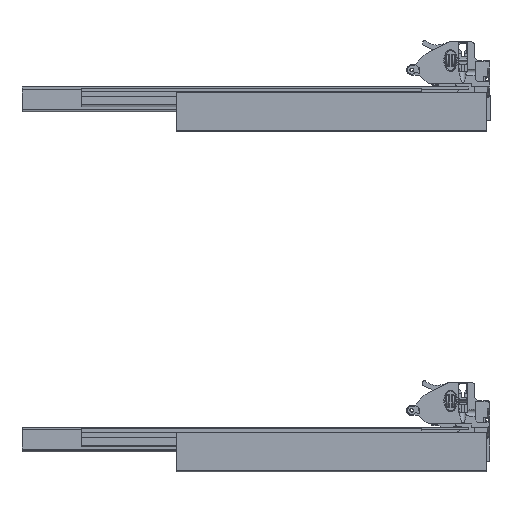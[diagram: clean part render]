
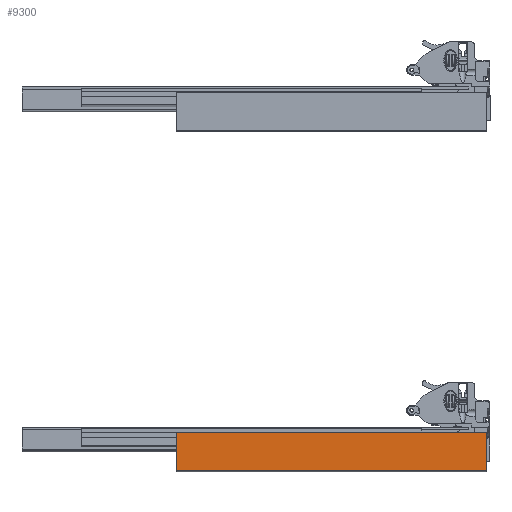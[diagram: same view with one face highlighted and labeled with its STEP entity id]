
A CAD part, front view. The second image highlights one B-rep face of the part: STEP entity #9300.
In plain terms, the highlighted planar face has unit normal (0, -1, 0).
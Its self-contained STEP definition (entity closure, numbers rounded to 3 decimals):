
#93=PLANE('',#9857);
#487=LINE('',#13175,#1614);
#488=LINE('',#13178,#1615);
#489=LINE('',#13180,#1616);
#490=LINE('',#13181,#1617);
#1614=VECTOR('',#10608,10.);
#1615=VECTOR('',#10611,10.);
#1616=VECTOR('',#10612,10.);
#1617=VECTOR('',#10613,10.);
#2843=FACE_OUTER_BOUND('',#3336,.T.);
#3336=EDGE_LOOP('',(#6404,#6405,#6406,#6407));
#4133=VERTEX_POINT('',#13168);
#4136=VERTEX_POINT('',#13173);
#4137=VERTEX_POINT('',#13177);
#4138=VERTEX_POINT('',#13179);
#5048=EDGE_CURVE('',#4136,#4133,#487,.T.);
#5049=EDGE_CURVE('',#4136,#4137,#488,.T.);
#5050=EDGE_CURVE('',#4137,#4138,#489,.T.);
#5051=EDGE_CURVE('',#4133,#4138,#490,.T.);
#6404=ORIENTED_EDGE('',*,*,#5048,.F.);
#6405=ORIENTED_EDGE('',*,*,#5049,.T.);
#6406=ORIENTED_EDGE('',*,*,#5050,.T.);
#6407=ORIENTED_EDGE('',*,*,#5051,.F.);
#9300=ADVANCED_FACE('',(#2843),#93,.T.);
#9857=AXIS2_PLACEMENT_3D('',#13176,#10609,#10610);
#10608=DIRECTION('',(-1.,0.,0.));
#10609=DIRECTION('center_axis',(0.,-1.,0.));
#10610=DIRECTION('ref_axis',(0.,0.,-1.));
#10611=DIRECTION('',(0.,0.,1.));
#10612=DIRECTION('',(-1.,0.,0.));
#10613=DIRECTION('',(0.,0.,1.));
#13168=CARTESIAN_POINT('',(-82.839,-144.183,1.));
#13173=CARTESIAN_POINT('',(282.161,-144.183,1.));
#13175=CARTESIAN_POINT('',(190.911,-144.183,1.));
#13176=CARTESIAN_POINT('Origin',(282.161,-144.183,0.));
#13177=CARTESIAN_POINT('',(282.161,-144.183,46.));
#13178=CARTESIAN_POINT('',(282.161,-144.183,0.));
#13179=CARTESIAN_POINT('',(-82.839,-144.183,46.));
#13180=CARTESIAN_POINT('',(-82.839,-144.183,46.));
#13181=CARTESIAN_POINT('',(-82.839,-144.183,0.));
